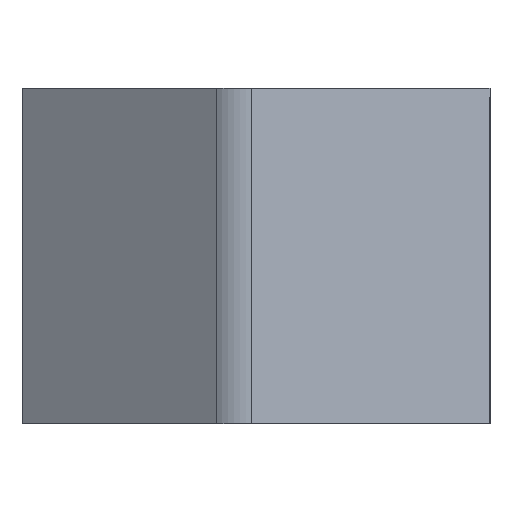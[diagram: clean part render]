
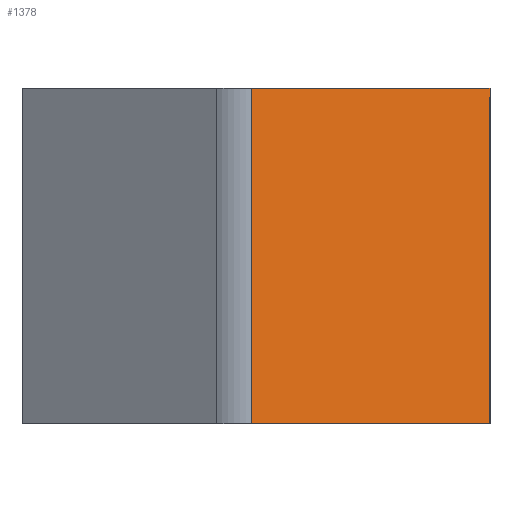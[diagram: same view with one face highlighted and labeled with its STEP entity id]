
A CAD part, left-side view. The second image highlights one B-rep face of the part: STEP entity #1378.
In plain terms, the highlighted planar face has unit normal (-0.963, -0.27, 0).
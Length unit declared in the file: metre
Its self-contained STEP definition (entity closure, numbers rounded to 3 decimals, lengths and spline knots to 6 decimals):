
#114=ORIENTED_EDGE('',*,*,#540,.F.);
#115=ORIENTED_EDGE('',*,*,#541,.F.);
#116=ORIENTED_EDGE('',*,*,#542,.T.);
#117=ORIENTED_EDGE('',*,*,#543,.T.);
#540=EDGE_CURVE('',#753,#754,#895,.T.);
#541=EDGE_CURVE('',#755,#753,#896,.T.);
#542=EDGE_CURVE('',#755,#756,#897,.T.);
#543=EDGE_CURVE('',#756,#754,#898,.T.);
#753=VERTEX_POINT('',#2037);
#754=VERTEX_POINT('',#2038);
#755=VERTEX_POINT('',#2040);
#756=VERTEX_POINT('',#2042);
#895=LINE('',#2036,#1040);
#896=LINE('',#2039,#1041);
#897=LINE('',#2041,#1042);
#898=LINE('',#2043,#1043);
#1040=VECTOR('',#1609,1.);
#1041=VECTOR('',#1610,1.);
#1042=VECTOR('',#1611,1.);
#1043=VECTOR('',#1612,1.);
#1185=EDGE_LOOP('',(#114,#115,#116,#117));
#1262=FACE_BOUND('',#1185,.T.);
#1339=PLANE('',#1464);
#1378=ADVANCED_FACE('',(#1262),#1339,.F.);
#1464=AXIS2_PLACEMENT_3D('',#2035,#1607,#1608);
#1607=DIRECTION('',(0.963,0.27,0.));
#1608=DIRECTION('',(-0.27,0.963,0.));
#1609=DIRECTION('',(0.,0.,-1.));
#1610=DIRECTION('',(0.27,-0.963,0.));
#1611=DIRECTION('',(0.,0.,-1.));
#1612=DIRECTION('',(0.27,-0.963,0.));
#2035=CARTESIAN_POINT('',(-0.023911,0.090819,0.004799));
#2036=CARTESIAN_POINT('',(-0.016386,0.063979,0.004799));
#2037=CARTESIAN_POINT('',(-0.016386,0.063979,0.017999));
#2038=CARTESIAN_POINT('',(-0.016386,0.063979,-0.017));
#2039=CARTESIAN_POINT('',(-0.023911,0.090819,0.017999));
#2040=CARTESIAN_POINT('',(-0.023351,0.08882,0.017999));
#2041=CARTESIAN_POINT('',(-0.023351,0.08882,0.004799));
#2042=CARTESIAN_POINT('',(-0.023351,0.08882,-0.017));
#2043=CARTESIAN_POINT('',(-0.023911,0.090819,-0.017));
